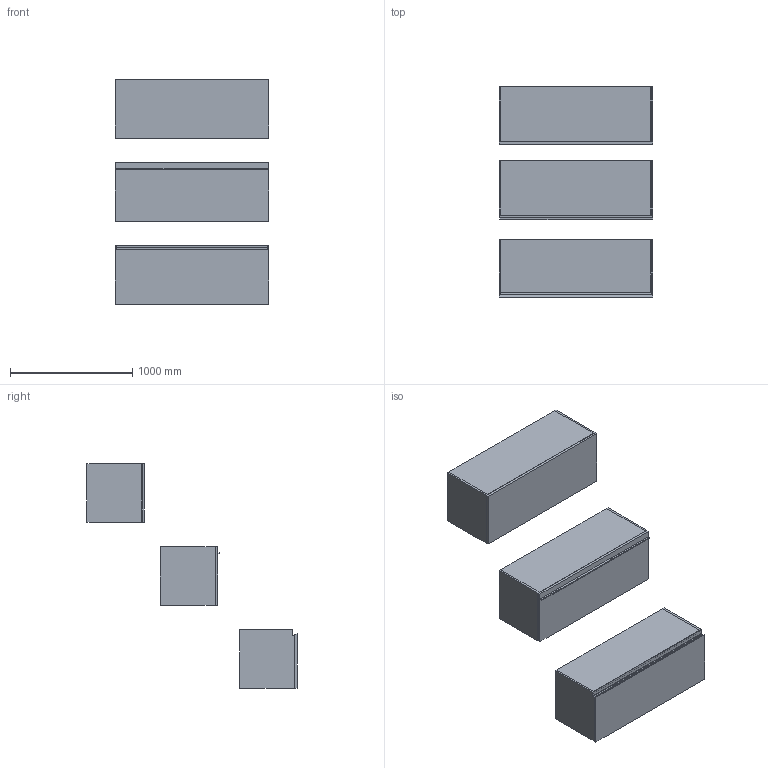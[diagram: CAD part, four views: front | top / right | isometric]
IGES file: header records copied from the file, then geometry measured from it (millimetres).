
Start section: Data from Parasolid IGES Translator 19.0.9, Copyright(c) 2006 Siemens PL M Software. All Rights Reserved.
Global section: file name: noorth-SI-H 48 D 47 W 126_8488.igs; native system: By Siemens PLM Incorporated; preprocessor: XPlus GENERIC/IGES 19.0.9; author: Noname; organization: Noname; date: 20200601.105925; units: metre
Bounding box: 1260 x 1719.1 x 1840.01 mm (x, y, z)
Volume: 111730150.6 mm3; surface area: 16911418.8 mm2
Topology: 20 solids, 20 shells, 178 faces, 382 edges, 234 vertices
Faces by surface type: plane 134, extrusion 16, bspline 16, cylinder 12
